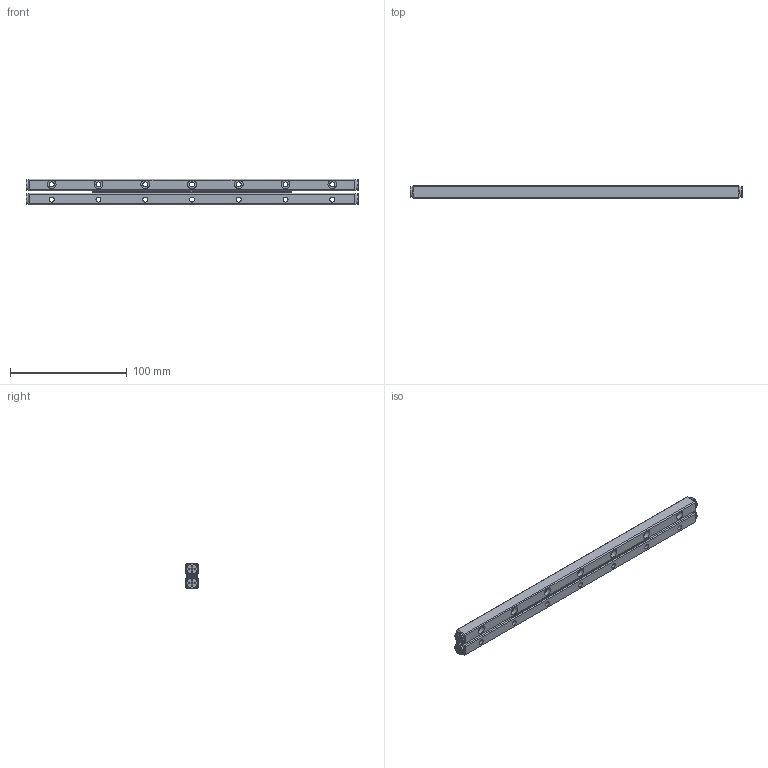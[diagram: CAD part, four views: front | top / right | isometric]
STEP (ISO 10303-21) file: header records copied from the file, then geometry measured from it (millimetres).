
FILE_DESCRIPTION (( 'STEP AP203' ), '1' );
FILE_NAME ('GRG04-0280-模糊化軌道組.STEP', '2022-10-31T07:16:46', ( '' ), ( '' ), 'SwSTEP 2.0', 'SolidWorks 2019', '' );
FILE_SCHEMA (( 'CONFIG_CONTROL_DESIGN' ));
Length unit declared in the file: millimetre
Products named in the file (1): GRG04-0280-模糊化軌道組
Bounding box: 284 x 11 x 22 mm (x, y, z)
Volume: 56892.3 mm3; surface area: 31472.6 mm2
Topology: 3 solids, 7 shells, 600 faces, 1488 edges, 946 vertices
Faces by surface type: plane 426, cylinder 82, torus 52, cone 40
Full cylindrical faces by diameter (mm): 3.35 x4, 4.3 x14, 7.5 x14, 9.3 x4
Entity records: 17577 total; most frequent: CARTESIAN_POINT 3941, ORIENTED_EDGE 2808, DIRECTION 2660, EDGE_CURVE 1404, VECTOR 962, LINE 962, VERTEX_POINT 914, AXIS2_PLACEMENT_3D 849
